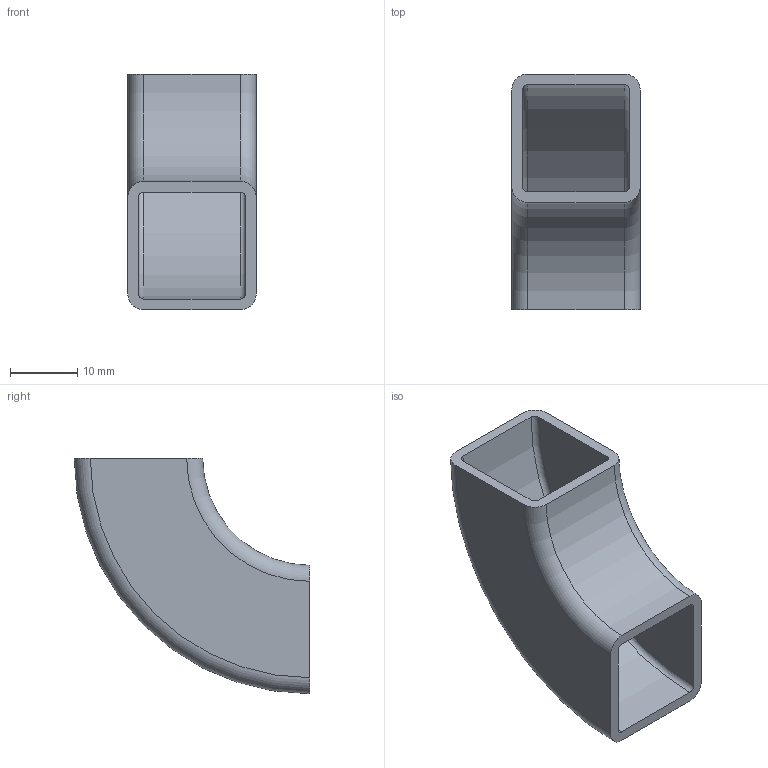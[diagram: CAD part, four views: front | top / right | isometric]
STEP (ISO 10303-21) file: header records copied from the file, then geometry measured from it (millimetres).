
FILE_DESCRIPTION((''),'2;1');
FILE_NAME('C:\Documents and Settings\bamfomg\Desktop\Owens corners\STP FILES\0.75x0.75x0.0625 - Steel.stp','2011-03-21T13:10:40',('bamfomg'),(''),'Autodesk Inventor 2011','Autodesk Inventor 2011','');
FILE_SCHEMA(('AUTOMOTIVE_DESIGN { 1 0 10303 214 1 1 1 1 }'));
Length unit declared in the file: inch
Products named in the file (1): Square Tube Corners
Bounding box: 19.05 x 34.92 x 34.92 mm (x, y, z)
Volume: 4251.6 mm3; surface area: 5569.4 mm2
Topology: 1 solids, 1 shells, 18 faces, 48 edges, 32 vertices
Faces by surface type: torus 8, plane 6, cylinder 4
Entity records: 616 total; most frequent: DIRECTION 118, CARTESIAN_POINT 99, ORIENTED_EDGE 96, AXIS2_PLACEMENT_3D 51, EDGE_CURVE 48, VERTEX_POINT 32, CIRCLE 32, EDGE_LOOP 20
